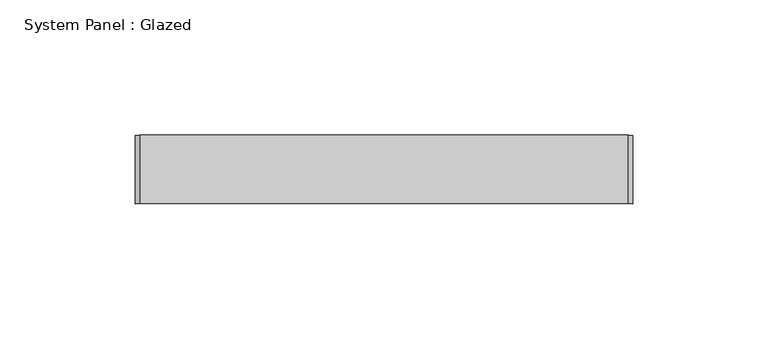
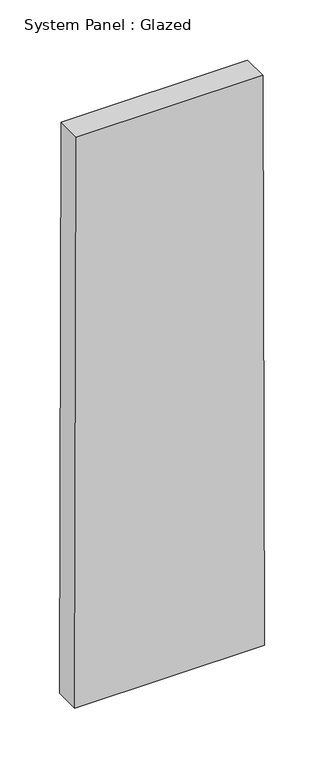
"""IFC4 building model written with IfcOpenShell, lengths in millimetres: plate geometry, System Panel : Glazed."""

import ifcopenshell
import ifcopenshell.guid

model = None  # the IFC model being written
_history = None  # IfcOwnerHistory: only IFC2X3 demands one
_inside = {}  # id of a spatial element -> (the spatial element, [elements in it])
_under = {}  # id of a project, library or spatial element -> (it, [spatial elements below it])
_declared = {}  # id of a project -> (the project, [libraries it declares])
_typed = {}  # id of a type object -> (the type object, [elements of that type])
_made_of = {}  # id of a material, layer set ... -> (it, [elements and type objects made of it])


def new_model(schema):
    """Start an empty IFC model of exactly this schema.

    Asked for "IFC4X3", IfcOpenShell would pick the latest addendum, in which some entities
    have other attributes; the version numbers below select the first issue.
    IFC2X3 requires an IfcOwnerHistory on every rooted entity: one is made here for all.
    """
    global model, _history
    if schema == "IFC4X3":
        model = ifcopenshell.file(schema_version=(4, 3, 0, 0))
    else:
        model = ifcopenshell.file(schema=schema)
    _inside.clear()
    _under.clear()
    _declared.clear()
    _typed.clear()
    _made_of.clear()
    _history = None
    if model.schema == "IFC2X3":
        org = make("IfcOrganization", Name="unknown")
        user = make(
            "IfcPersonAndOrganization",
            ThePerson=make("IfcPerson", FamilyName="unknown"),
            TheOrganization=org,
        )
        app = make(
            "IfcApplication",
            ApplicationDeveloper=org,
            Version="unknown",
            ApplicationFullName="unknown",
            ApplicationIdentifier="unknown",
        )
        _history = make(
            "IfcOwnerHistory",
            OwningUser=user,
            OwningApplication=app,
            ChangeAction="ADDED",
            CreationDate=0,
        )
    return model


def make(cls, **values):
    """One entity of the class cls with the attributes given. An attribute that is None is left unset."""
    return model.create_entity(
        cls, **{name: value for name, value in values.items() if value is not None}
    )


def rooted(cls, **values):
    """An entity with a GlobalId (a new one), such as an element, a storey or a relation."""
    return make(cls, GlobalId=ifcopenshell.guid.new(), OwnerHistory=_history, **values)


def si_unit(unit_type, name, prefix=None):
    """IfcSIUnit, for example si_unit("LENGTHUNIT", "METRE", prefix="MILLI")."""
    return make("IfcSIUnit", UnitType=unit_type, Prefix=prefix, Name=name)


def assignment(units):
    """IfcUnitAssignment: the units of a project."""
    return None if units is None else make("IfcUnitAssignment", Units=units)


def point(xyz):
    """IfcCartesianPoint."""
    return None if xyz is None else make("IfcCartesianPoint", Coordinates=xyz)


def direction(xyz):
    """IfcDirection."""
    return None if xyz is None else make("IfcDirection", DirectionRatios=xyz)


def frame(location, z_axis=None, x_axis=None):
    """IfcAxis2Placement3D, a coordinate frame: its origin and axes. An axis left out is left unset."""
    return make(
        "IfcAxis2Placement3D",
        Location=point(location),
        Axis=direction(z_axis),
        RefDirection=direction(x_axis),
    )


def origin():
    """The frame at (0, 0, 0) with its axes left unset."""
    return frame((0.0, 0.0, 0.0))


def place(relative_to, where):
    """IfcLocalPlacement: puts the frame where relative to a parent placement (None: the world)."""
    return make(
        "IfcLocalPlacement", PlacementRelTo=relative_to, RelativePlacement=where
    )


def context(
    kind, dimensions, precision=None, world=None, true_north=None, identifier=None
):
    """IfcGeometricRepresentationContext, for example the 3D "Model" context."""
    return make(
        "IfcGeometricRepresentationContext",
        ContextIdentifier=identifier,
        ContextType=kind,
        CoordinateSpaceDimension=dimensions,
        Precision=precision,
        WorldCoordinateSystem=world,
        TrueNorth=true_north,
    )


def project(units=None, contexts=None):
    """IfcProject with its units and contexts."""
    return rooted(
        "IfcProject",
        Name="project",
        RepresentationContexts=contexts,
        UnitsInContext=assignment(units),
    )


def spatial(cls, under=None, at=None, **own):
    """A site, building, storey or space (cls), placed at a placement, below another one or the project."""
    s = rooted(cls, ObjectPlacement=at, **own)
    if under is not None:
        _under.setdefault(under.id(), (under, []))[1].append(s)
    return s


def polyline(points):
    """IfcPolyline through the points."""
    return make("IfcPolyline", Points=[point(p) for p in points])


def outline(outer, holes=None, kind="AREA"):
    """IfcArbitraryClosedProfileDef: a profile drawn as a closed curve; with holes, ...WithVoids."""
    if holes is None:
        return make("IfcArbitraryClosedProfileDef", ProfileType=kind, OuterCurve=outer)
    return make(
        "IfcArbitraryProfileDefWithVoids",
        ProfileType=kind,
        OuterCurve=outer,
        InnerCurves=holes,
    )


def extrude(swept, where, along, depth):
    """IfcExtrudedAreaSolid: the profile swept, set in the frame where, extruded along a direction by depth."""
    return make(
        "IfcExtrudedAreaSolid",
        SweptArea=swept,
        Position=where,
        ExtrudedDirection=direction(along),
        Depth=depth,
    )


def shape(context_of_items, identifier, shape_type, items):
    """IfcShapeRepresentation: the items that make up one representation, for example the "Body"."""
    return make(
        "IfcShapeRepresentation",
        ContextOfItems=context_of_items,
        RepresentationIdentifier=identifier,
        RepresentationType=shape_type,
        Items=items,
    )


def source(mapping_origin, context_of_items, identifier, shape_type, items):
    """IfcRepresentationMap: a shape defined once, which mapped items show again and again."""
    return make(
        "IfcRepresentationMap",
        MappingOrigin=mapping_origin,
        MappedRepresentation=shape(context_of_items, identifier, shape_type, items),
    )


def transform(
    local_origin,
    x_axis=None,
    y_axis=None,
    z_axis=None,
    scale=None,
    scale2=None,
    scale3=None,
    uniform=True,
):
    """IfcCartesianTransformationOperator3D, or its non-uniform kind. x_axis, y_axis, z_axis: its Axis1, 2, 3."""
    if uniform:
        return make(
            "IfcCartesianTransformationOperator3D",
            Axis1=direction(x_axis),
            Axis2=direction(y_axis),
            LocalOrigin=point(local_origin),
            Scale=scale,
            Axis3=direction(z_axis),
        )
    return make(
        "IfcCartesianTransformationOperator3DnonUniform",
        Axis1=direction(x_axis),
        Axis2=direction(y_axis),
        LocalOrigin=point(local_origin),
        Scale=scale,
        Axis3=direction(z_axis),
        Scale2=scale2,
        Scale3=scale3,
    )


def mapped(mapping_source, mapping_target):
    """IfcMappedItem: shows the shape of a source again, moved by a transform."""
    return make(
        "IfcMappedItem", MappingSource=mapping_source, MappingTarget=mapping_target
    )


def made_of(thing, what):
    """Note that an element or type object is made of a material, layer set ...; save() writes the relation."""
    if what is not None:
        _made_of.setdefault(what.id(), (what, []))[1].append(thing)
    return thing


def element(
    cls,
    number,
    at=None,
    inside=None,
    cuts=None,
    type_object=None,
    material=None,
    context=None,
    identifier="Body",
    shape_type=None,
    held_by="IfcProductDefinitionShape",
    body=None,
    shapes=None,
    **own,
):
    """One element of the class cls, such as IfcWall. Its Tag is "e" and its number.

    at: its placement. inside: the storey or other place that contains it. cuts: it is an
    opening in that element (IfcRelVoidsElement). A single representation is given by context,
    identifier, shape_type and body (its items); several are given by shapes. held_by: the class
    of the entity that holds the representations. save() writes the other relations.
    """
    e = rooted(cls, Tag="e%d" % number, ObjectPlacement=at, **own)
    if body is not None:
        shapes = [shape(context, identifier, shape_type, body)]
    if shapes is not None:
        e.Representation = make(held_by, Representations=shapes)
    if inside is not None:
        _inside.setdefault(inside.id(), (inside, []))[1].append(e)
    if cuts is not None:
        rooted(
            "IfcRelVoidsElement", RelatingBuildingElement=cuts, RelatedOpeningElement=e
        )
    if type_object is not None:
        _typed.setdefault(type_object.id(), (type_object, []))[1].append(e)
    return made_of(e, material)


def aggregate(whole, parts):
    """IfcRelAggregates: a whole, such as a stair, and the parts it consists of."""
    return rooted("IfcRelAggregates", RelatingObject=whole, RelatedObjects=parts)


def save(model, path):
    """Write the relations noted so far, then the file.

    IfcRelAggregates (storeys below a building ...), IfcRelContainedInSpatialStructure (elements
    in a storey), IfcRelDefinesByType, IfcRelAssociatesMaterial and IfcRelDeclares: one each for
    every whole, place, type object, material and project.
    """
    for whole, parts in _under.values():
        aggregate(whole, parts)
    for where, things in _inside.values():
        rooted(
            "IfcRelContainedInSpatialStructure",
            RelatedElements=things,
            RelatingStructure=where,
        )
    for kind, things in _typed.values():
        rooted("IfcRelDefinesByType", RelatedObjects=things, RelatingType=kind)
    for what, things in _made_of.values():
        rooted("IfcRelAssociatesMaterial", RelatedObjects=things, RelatingMaterial=what)
    for by, libraries in _declared.values():
        rooted("IfcRelDeclares", RelatingContext=by, RelatedDefinitions=libraries)
    model.write(path)


def system_panel_glazed_81883068(model_context):
    return source(origin(), model_context, "Body", "SweptSolid", [
        extrude(outline(polyline([(0.0, -91.9858435), (0.0, 91.9858435), (584.1976038, 90.3478415), (584.1976038, -90.3478415), (0.0, -91.9858435)])), frame((0.0, -44.45, 0.0), z_axis=(0.0, 1.0, 0.0), x_axis=(0.0, 0.0, 1.0)), (0.0, 0.0, 1.0), 25.4),
    ])


if __name__ == "__main__":
    model = new_model("IFC4")
    model_context = context("Model", 3, world=origin())
    ifc_project = project(units=[si_unit("LENGTHUNIT", "METRE", prefix="MILLI")], contexts=[model_context])
    site = spatial("IfcSite", under=ifc_project)
    building = spatial("IfcBuilding", under=site)
    placement = place(None, origin())
    system_panel_glazed_shape = system_panel_glazed_81883068(model_context)
    element("IfcPlate", 1, ObjectType="System Panel : Glazed", at=placement, inside=building, context=model_context, shape_type="MappedRepresentation", body=[
        mapped(system_panel_glazed_shape, transform((0.0, 0.0, 0.0), x_axis=(1.0, 0.0, 0.0), y_axis=(0.0, 1.0, 0.0), z_axis=(0.0, 0.0, 1.0))),
    ])
    save(model, "model.ifc")
